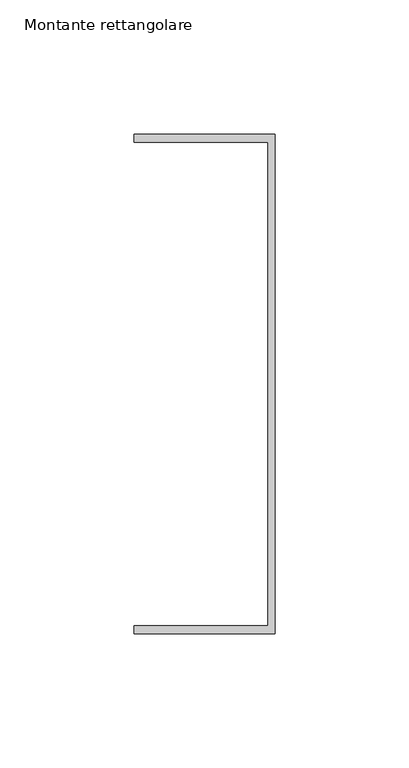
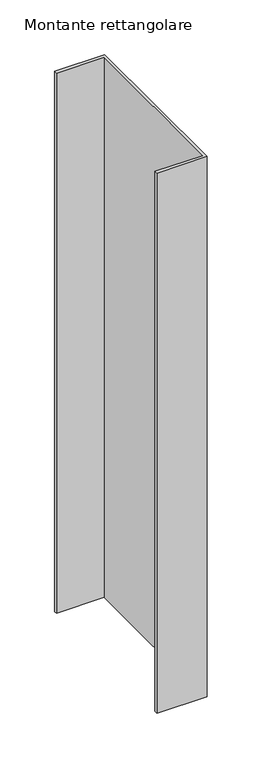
"""IFC4 building model written with IfcOpenShell, lengths in millimetres: member geometry, Montante rettangolare : Verde Profilo's RaceWaterDrainFloor."""

from ifc_helpers import new_model, si_unit, frame, origin, place, context, project, spatial, polyline, outline, extrude, source, transform, mapped, element, save


def montante_rettangolare_9a79dadd(model_context):
    return source(origin(), model_context, "Body", "SweptSolid", [
        extrude(outline(polyline([(0.0, -186.0), (-52.4801246, -186.0), (-52.4801246, -183.0236719), (-2.4801246, -183.0236719), (-2.4801246, -2.9763281), (-52.4801246, -2.9763281), (-52.4801246, 0.0), (0.0, 0.0), (0.0, -186.0)])), frame((0.0, 0.0, -600.0), z_axis=(0.0, 0.0, 1.0), x_axis=(1.0, 0.0, 0.0)), (0.0, 0.0, 1.0), 600.0),
    ])


if __name__ == "__main__":
    model = new_model("IFC4")
    model_context = context("Model", 3, world=origin())
    ifc_project = project(units=[si_unit("LENGTHUNIT", "METRE", prefix="MILLI")], contexts=[model_context])
    site = spatial("IfcSite", under=ifc_project)
    building = spatial("IfcBuilding", under=site)
    placement = place(None, origin())
    montante_rettangolare_shape = montante_rettangolare_9a79dadd(model_context)
    element("IfcMember", 1, ObjectType="Montante rettangolare : Verde Profilo's RaceWaterDrainFloor", at=placement, inside=building, context=model_context, shape_type="MappedRepresentation", body=[
        mapped(montante_rettangolare_shape, transform((0.0, 0.0, 0.0), x_axis=(1.0, 0.0, 0.0), y_axis=(0.0, 1.0, 0.0), z_axis=(0.0, 0.0, 1.0))),
    ])
    save(model, "model.ifc")
